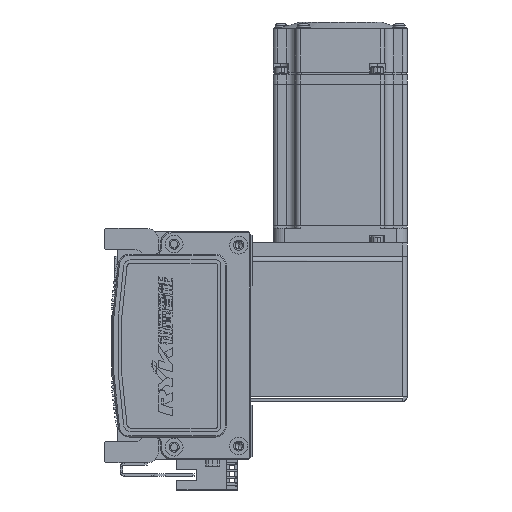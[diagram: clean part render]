
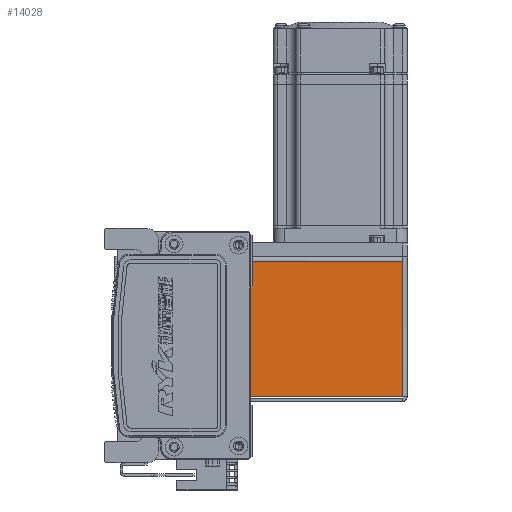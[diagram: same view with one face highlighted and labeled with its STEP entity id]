
A CAD part, left-side view. The second image highlights one B-rep face of the part: STEP entity #14028.
In plain terms, the highlighted planar face has unit normal (-1, 0, 0) as drawn and (0, 0, 1) by its records, which use the part's own axes.
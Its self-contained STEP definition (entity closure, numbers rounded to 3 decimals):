
#921 = DIRECTION ( 'NONE',  ( 0., 1., 0. ) ) ;
#2437 = EDGE_CURVE ( 'NONE', #7846, #23322, #14981, .T. ) ;
#5412 = CARTESIAN_POINT ( 'NONE',  ( -30.293, 72.5, 35. ) ) ;
#6670 = VECTOR ( 'NONE', #28294, 1000. ) ;
#7846 = VERTEX_POINT ( 'NONE', #16716 ) ;
#9716 = EDGE_CURVE ( 'NONE', #47822, #23322, #62903, .T. ) ;
#12543 = ORIENTED_EDGE ( 'NONE', *, *, #9716, .F. ) ;
#14028 = ADVANCED_FACE ( 'NONE', ( #20103 ), #38498, .F. ) ;
#14981 = LINE ( 'NONE', #61640, #52475 ) ;
#15226 = CARTESIAN_POINT ( 'NONE',  ( 30.263, 0.737, 35. ) ) ;
#16716 = CARTESIAN_POINT ( 'NONE',  ( 30.263, 72.5, 35. ) ) ;
#19556 = AXIS2_PLACEMENT_3D ( 'NONE', #22870, #28053, #38272 ) ;
#20103 = FACE_OUTER_BOUND ( 'NONE', #64793, .T. ) ;
#22870 = CARTESIAN_POINT ( 'NONE',  ( 0., 0., 35. ) ) ;
#23322 = VERTEX_POINT ( 'NONE', #5412 ) ;
#28053 = DIRECTION ( 'NONE',  ( 0., 0., -1. ) ) ;
#28294 = DIRECTION ( 'NONE',  ( -1., 0., 0. ) ) ;
#28961 = CARTESIAN_POINT ( 'NONE',  ( -32.5, 0.737, 35. ) ) ;
#29460 = VERTEX_POINT ( 'NONE', #15226 ) ;
#29629 = ORIENTED_EDGE ( 'NONE', *, *, #61233, .F. ) ;
#30043 = VECTOR ( 'NONE', #921, 1000. ) ;
#30999 = DIRECTION ( 'NONE',  ( -1., 0., 0. ) ) ;
#34300 = VECTOR ( 'NONE', #43325, 1000. ) ;
#38272 = DIRECTION ( 'NONE',  ( -1., 0., 0. ) ) ;
#38498 = PLANE ( 'NONE',  #19556 ) ;
#40271 = LINE ( 'NONE', #28961, #6670 ) ;
#42378 = EDGE_CURVE ( 'NONE', #29460, #7846, #57022, .T. ) ;
#42461 = CARTESIAN_POINT ( 'NONE',  ( 30.263, 0.737, 35. ) ) ;
#43325 = DIRECTION ( 'NONE',  ( 0., 1., 0. ) ) ;
#45724 = ORIENTED_EDGE ( 'NONE', *, *, #2437, .T. ) ;
#47822 = VERTEX_POINT ( 'NONE', #47881 ) ;
#47881 = CARTESIAN_POINT ( 'NONE',  ( -30.293, 0.737, 35. ) ) ;
#48672 = CARTESIAN_POINT ( 'NONE',  ( -30.293, 0., 35. ) ) ;
#52475 = VECTOR ( 'NONE', #30999, 1000. ) ;
#57022 = LINE ( 'NONE', #42461, #30043 ) ;
#61233 = EDGE_CURVE ( 'NONE', #29460, #47822, #40271, .T. ) ;
#61640 = CARTESIAN_POINT ( 'NONE',  ( 0., 72.5, 35. ) ) ;
#62903 = LINE ( 'NONE', #48672, #34300 ) ;
#64793 = EDGE_LOOP ( 'NONE', ( #64996, #45724, #12543, #29629 ) ) ;
#64996 = ORIENTED_EDGE ( 'NONE', *, *, #42378, .T. ) ;
